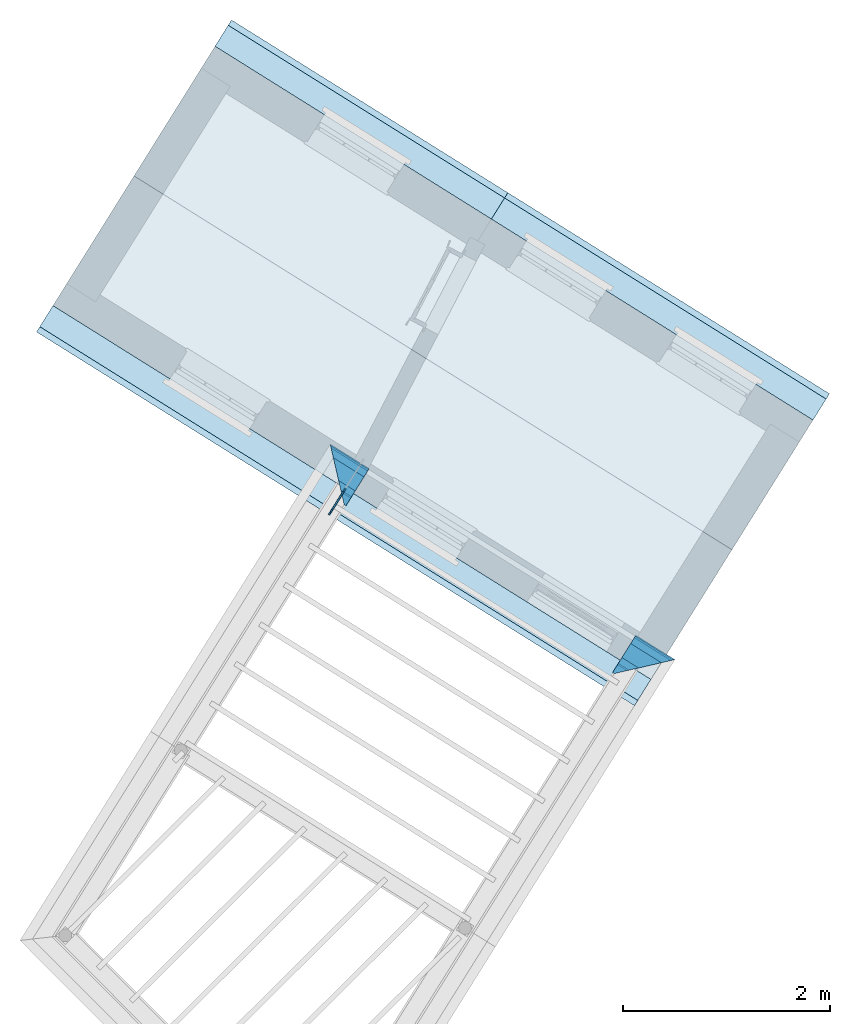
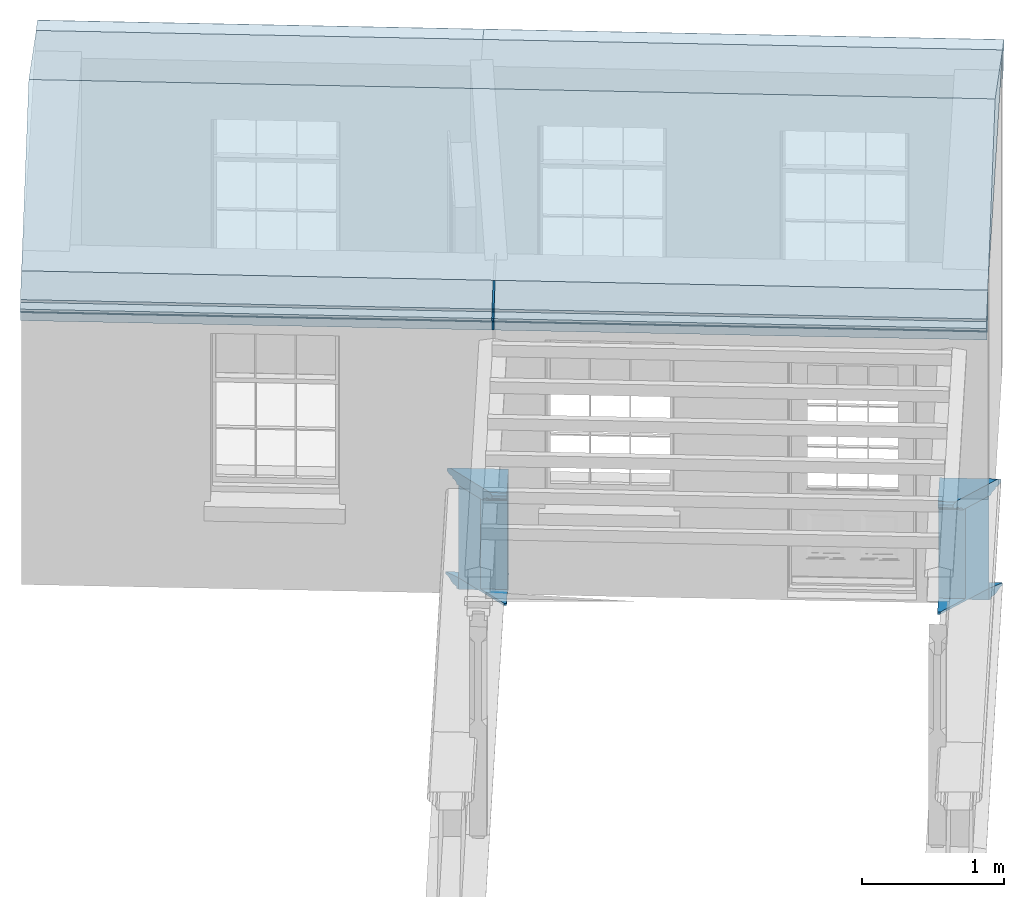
# One storey, part 5 of 5: 11 roofs, 6 walls.
"""IFC4 building model written with IfcOpenShell, lengths in metres."""

from ifc_helpers import new_model, si_unit, frame, origin, origin_with_axes, place, context, subcontext, project, spatial, polyline, outline, extrude, clip, halfspace, faceted_brep, material_profile, profile_set, profile_usage, type_object, element, save


model = new_model("IFC4")

# Units and contexts
model_context = context("Model", 3, world=origin_with_axes())
body_context = subcontext(model_context, "Body", "Model", "MODEL_VIEW")
ifc_project = project(units=[si_unit("PLANEANGLEUNIT", "RADIAN"), si_unit("MASSUNIT", "GRAM", prefix="KILO"), si_unit("FORCEUNIT", "NEWTON", prefix="KILO"), si_unit("LENGTHUNIT", "METRE"), si_unit("AREAUNIT", "SQUARE_METRE"), si_unit("VOLUMEUNIT", "CUBIC_METRE")], contexts=[model_context, model_context])

# Sites, building, storey
site_1_placement = place(None, origin_with_axes())
site_1 = spatial("IfcSite", under=ifc_project, at=site_1_placement, Name="Tamar")
site_2_placement = place(site_1_placement, origin_with_axes())
site_2 = spatial("IfcSite", under=site_1, at=site_2_placement, Name="Site plot-3", CompositionType="ELEMENT")
building_placement = place(None, origin_with_axes())
building = spatial("IfcBuilding", under=site_2, at=building_placement, Name="Building plot-3", CompositionType="ELEMENT")
storey_placement = place(None, frame((0.0, 0.0, 30.5), z_axis=(0.0, 0.0, 1.0), x_axis=(1.0, 0.0, 0.0)))
storey = spatial("IfcBuildingStorey", under=building, at=storey_placement, Name="plot-3 2", CompositionType="ELEMENT", Elevation=30.5)

# Walls
ifc_material_profile_1 = material_profile(None, outline(polyline([(0.25, 0.0), (0.25, 0.795), (0.09, 0.795), (0.09, 0.02), (-0.08, 0.02), (-0.08, 0.0), (0.25, 0.0)])))
ifc_profile_set_1 = profile_set([ifc_material_profile_1])
ifc_profile_usage_1 = profile_usage(ifc_profile_set_1)
wall_type_1 = type_object("IfcWallType", Name="parapet_0", PredefinedType="PARAPET", material=ifc_profile_set_1)
wall_1_placement = place(storey_placement, frame((215.2746900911, 286.334345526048, 0.0), z_axis=(0.84798107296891, -0.53002650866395, 0.0), x_axis=(0.53002650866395, 0.84798107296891, 0.0)))
element("IfcWall", 1, at=wall_1_placement, inside=storey, type_object=wall_type_1, material=ifc_profile_usage_1, Name="parapet_0", context=body_context, shape_type="Clipping", body=[
    clip(clip(extrude(outline(polyline([(0.25, 0.0), (0.25, 0.795), (0.09, 0.795), (0.09, 0.02), (-0.08, 0.02), (-0.08, 0.0), (0.25, 0.0)])), origin_with_axes(), (0.0, 0.0, 1.0), 2.10000000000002), halfspace(frame((0.0, 0.0, 1.10000000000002), z_axis=(-1.20516410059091e-14, 0.0, -1.0), x_axis=(0.0, 1.0, 0.0)), True)), halfspace(frame((0.0, 0.0, 1.0), z_axis=(-0.707106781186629, 0.0, -0.707106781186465), x_axis=(0.0, 1.0, 0.0)), False)),
])
ifc_profile_usage_2 = profile_usage(ifc_profile_set_1)
wall_2_placement = place(storey_placement, frame((217.937238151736, 284.670132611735, 0.0), z_axis=(0.84798107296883, -0.530026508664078, 0.0), x_axis=(0.530026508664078, 0.84798107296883, 0.0)))
element("IfcWall", 2, at=wall_2_placement, inside=storey, type_object=wall_type_1, material=ifc_profile_usage_2, Name="parapet_0", context=body_context, shape_type="Clipping", body=[
    clip(clip(extrude(outline(polyline([(0.25, 0.0), (0.25, 0.795), (0.09, 0.795), (0.09, 0.02), (-0.08, 0.02), (-0.08, 0.0), (0.25, 0.0)])), origin_with_axes(), (0.0, 0.0, 1.0), 2.09999999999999), halfspace(frame((0.0, 0.0, 1.09999999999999), z_axis=(0.707106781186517, 0.0, -0.707106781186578), x_axis=(0.0, 1.0, 0.0)), True)), halfspace(frame((0.0, 0.0, 1.0), z_axis=(-5.83439206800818e-15, 0.0, -1.0), x_axis=(0.0, 1.0, 0.0)), False)),
])
ifc_material_profile_2 = material_profile(None, outline(polyline([(0.265, 0.795), (0.268, 0.807), (0.274, 0.816), (0.283, 0.822), (0.295, 0.825), (0.295, 0.84), (0.305, 0.84), (0.317, 0.842), (0.326, 0.849), (0.333, 0.858), (0.335, 0.87), (0.333, 0.882), (0.326, 0.891), (0.317, 0.898), (0.305, 0.9), (0.035, 0.9), (0.023, 0.898), (0.014, 0.891), (0.007, 0.882), (0.005, 0.87), (0.007, 0.858), (0.014, 0.849), (0.023, 0.842), (0.035, 0.84), (0.045, 0.84), (0.045, 0.825), (0.057, 0.822), (0.066, 0.816), (0.072, 0.807), (0.075, 0.795), (0.265, 0.795)])))
ifc_profile_set_2 = profile_set([ifc_material_profile_2])
ifc_profile_usage_3 = profile_usage(ifc_profile_set_2)
wall_type_2 = type_object("IfcWallType", Name="parapet_1", PredefinedType="PARAPET", material=ifc_profile_set_2)
wall_3_placement = place(storey_placement, frame((215.2746900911, 286.334345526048, 0.0), z_axis=(0.84798107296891, -0.53002650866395, 0.0), x_axis=(0.53002650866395, 0.84798107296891, 0.0)))
element("IfcWall", 3, at=wall_3_placement, inside=storey, type_object=wall_type_2, material=ifc_profile_usage_3, Name="parapet_1", context=body_context, shape_type="Clipping", body=[
    clip(clip(extrude(outline(polyline([(0.265, 0.795), (0.268, 0.807), (0.274, 0.816), (0.283, 0.822), (0.295, 0.825), (0.295, 0.84), (0.305, 0.84), (0.317, 0.842), (0.326, 0.849), (0.333, 0.858), (0.335, 0.87), (0.333, 0.882), (0.326, 0.891), (0.317, 0.898), (0.305, 0.9), (0.035, 0.9), (0.023, 0.898), (0.014, 0.891), (0.007, 0.882), (0.005, 0.87), (0.007, 0.858), (0.014, 0.849), (0.023, 0.842), (0.035, 0.84), (0.045, 0.84), (0.045, 0.825), (0.057, 0.822), (0.066, 0.816), (0.072, 0.807), (0.075, 0.795), (0.265, 0.795)])), origin_with_axes(), (0.0, 0.0, 1.0), 2.10000000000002), halfspace(frame((0.0, 0.0, 1.10000000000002), z_axis=(-1.20516410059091e-14, 0.0, -1.0), x_axis=(0.0, 1.0, 0.0)), True)), halfspace(frame((0.0, 0.0, 1.0), z_axis=(-0.707106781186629, 0.0, -0.707106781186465), x_axis=(0.0, 1.0, 0.0)), False)),
])
ifc_profile_usage_4 = profile_usage(ifc_profile_set_2)
wall_4_placement = place(storey_placement, frame((217.937238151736, 284.670132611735, 0.0), z_axis=(0.84798107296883, -0.530026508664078, 0.0), x_axis=(0.530026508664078, 0.84798107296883, 0.0)))
element("IfcWall", 4, at=wall_4_placement, inside=storey, type_object=wall_type_2, material=ifc_profile_usage_4, Name="parapet_1", context=body_context, shape_type="Clipping", body=[
    clip(clip(extrude(outline(polyline([(0.265, 0.795), (0.268, 0.807), (0.274, 0.816), (0.283, 0.822), (0.295, 0.825), (0.295, 0.84), (0.305, 0.84), (0.317, 0.842), (0.326, 0.849), (0.333, 0.858), (0.335, 0.87), (0.333, 0.882), (0.326, 0.891), (0.317, 0.898), (0.305, 0.9), (0.035, 0.9), (0.023, 0.898), (0.014, 0.891), (0.007, 0.882), (0.005, 0.87), (0.007, 0.858), (0.014, 0.849), (0.023, 0.842), (0.035, 0.84), (0.045, 0.84), (0.045, 0.825), (0.057, 0.822), (0.066, 0.816), (0.072, 0.807), (0.075, 0.795), (0.265, 0.795)])), origin_with_axes(), (0.0, 0.0, 1.0), 2.09999999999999), halfspace(frame((0.0, 0.0, 1.09999999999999), z_axis=(0.707106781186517, 0.0, -0.707106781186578), x_axis=(0.0, 1.0, 0.0)), True)), halfspace(frame((0.0, 0.0, 1.0), z_axis=(-5.83439206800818e-15, 0.0, -1.0), x_axis=(0.0, 1.0, 0.0)), False)),
])
ifc_material_profile_3 = material_profile(None, outline(polyline([(0.25, -0.1), (0.265, -0.1), (0.265, -0.085), (0.278, -0.084), (0.289, -0.081), (0.301, -0.074), (0.309, -0.065), (0.315, -0.055), (0.324, -0.044), (0.334, -0.038), (0.345, -0.035), (0.345, -0.015), (0.25, 0.0), (0.25, -0.1)])))
ifc_profile_set_3 = profile_set([ifc_material_profile_3])
ifc_profile_usage_5 = profile_usage(ifc_profile_set_3)
wall_type_3 = type_object("IfcWallType", Name="parapet_2", PredefinedType="PARAPET", material=ifc_profile_set_3)
wall_5_placement = place(storey_placement, frame((215.2746900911, 286.334345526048, 0.0), z_axis=(0.84798107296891, -0.53002650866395, 0.0), x_axis=(0.53002650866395, 0.84798107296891, 0.0)))
element("IfcWall", 5, at=wall_5_placement, inside=storey, type_object=wall_type_3, material=ifc_profile_usage_5, Name="parapet_2", context=body_context, shape_type="Clipping", body=[
    clip(clip(extrude(outline(polyline([(0.25, -0.1), (0.265, -0.1), (0.265, -0.085), (0.278, -0.084), (0.289, -0.081), (0.301, -0.074), (0.309, -0.065), (0.315, -0.055), (0.324, -0.044), (0.334, -0.038), (0.345, -0.035), (0.345, -0.015), (0.25, 0.0), (0.25, -0.1)])), origin_with_axes(), (0.0, 0.0, 1.0), 2.10000000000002), halfspace(frame((0.0, 0.0, 1.10000000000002), z_axis=(-1.20516410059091e-14, 0.0, -1.0), x_axis=(0.0, 1.0, 0.0)), True)), halfspace(frame((0.0, 0.0, 1.0), z_axis=(-0.707106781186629, 0.0, -0.707106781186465), x_axis=(0.0, 1.0, 0.0)), False)),
])
ifc_profile_usage_6 = profile_usage(ifc_profile_set_3)
wall_6_placement = place(storey_placement, frame((217.937238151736, 284.670132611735, 0.0), z_axis=(0.84798107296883, -0.530026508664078, 0.0), x_axis=(0.530026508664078, 0.84798107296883, 0.0)))
element("IfcWall", 6, at=wall_6_placement, inside=storey, type_object=wall_type_3, material=ifc_profile_usage_6, Name="parapet_2", context=body_context, shape_type="Clipping", body=[
    clip(clip(extrude(outline(polyline([(0.25, -0.1), (0.265, -0.1), (0.265, -0.085), (0.278, -0.084), (0.289, -0.081), (0.301, -0.074), (0.309, -0.065), (0.315, -0.055), (0.324, -0.044), (0.334, -0.038), (0.345, -0.035), (0.345, -0.015), (0.25, 0.0), (0.25, -0.1)])), origin_with_axes(), (0.0, 0.0, 1.0), 2.09999999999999), halfspace(frame((0.0, 0.0, 1.09999999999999), z_axis=(0.707106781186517, 0.0, -0.707106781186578), x_axis=(0.0, 1.0, 0.0)), True)), halfspace(frame((0.0, 0.0, 1.0), z_axis=(-5.83439206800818e-15, 0.0, -1.0), x_axis=(0.0, 1.0, 0.0)), False)),
])

# Roofs
ifc_material_profile_4 = material_profile(None, outline(polyline([(0.25, -0.11), (0.25, -0.33), (0.265, -0.33), (0.268, -0.318), (0.274, -0.309), (0.283, -0.303), (0.295, -0.3), (0.295, -0.285), (0.455, -0.285), (0.455, -0.205), (0.47, -0.205), (0.47, -0.19), (0.483, -0.189), (0.494, -0.186), (0.506, -0.179), (0.514, -0.17), (0.52, -0.16), (0.529, -0.149), (0.539, -0.143), (0.55, -0.14), (0.55, -0.12), (0.48, -0.11), (0.25, -0.11)])))
ifc_profile_set_4 = profile_set([ifc_material_profile_4])
ifc_profile_usage_7 = profile_usage(ifc_profile_set_4)
roof_type_1 = type_object("IfcRoofType", Name="eaves_0", PredefinedType="FREEFORM", material=ifc_profile_set_4)
roof_1_placement = place(storey_placement, frame((217.134960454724, 285.537166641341, 2.7), z_axis=(-0.847981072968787, 0.530026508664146, 0.0), x_axis=(-0.530026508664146, -0.847981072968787, 0.0)))
element("IfcRoof", 7, at=roof_1_placement, inside=storey, type_object=roof_type_1, material=ifc_profile_usage_7, Name="eaves_0", context=body_context, shape_type="Clipping", body=[
    clip(clip(extrude(outline(polyline([(0.25, -0.11), (0.25, -0.33), (0.265, -0.33), (0.268, -0.318), (0.274, -0.309), (0.283, -0.303), (0.295, -0.3), (0.295, -0.285), (0.455, -0.285), (0.455, -0.205), (0.47, -0.205), (0.47, -0.19), (0.483, -0.189), (0.494, -0.186), (0.506, -0.179), (0.514, -0.17), (0.52, -0.16), (0.529, -0.149), (0.539, -0.143), (0.55, -0.14), (0.55, -0.12), (0.48, -0.11), (0.25, -0.11)])), origin_with_axes(), (0.0, 0.0, 1.0), 5.32765367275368), halfspace(frame((0.0, 0.0, 4.32765367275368), z_axis=(1.59259792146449e-14, 0.0, -1.0), x_axis=(0.0, 1.0, 0.0)), True)), halfspace(frame((0.0, 0.0, 1.0), z_axis=(1.59259792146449e-14, 0.0, -1.0), x_axis=(0.0, 1.0, 0.0)), False)),
])
ifc_profile_usage_8 = profile_usage(ifc_profile_set_4)
roof_2_placement = place(storey_placement, frame((217.147106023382, 285.529575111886, 2.7), z_axis=(-0.847981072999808, 0.530026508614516, 0.0), x_axis=(-0.530026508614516, -0.847981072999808, 0.0)))
element("IfcRoof", 8, at=roof_2_placement, inside=storey, type_object=roof_type_1, material=ifc_profile_usage_8, Name="eaves_0", context=body_context, shape_type="Clipping", body=[
    clip(clip(extrude(outline(polyline([(0.25, -0.11), (0.25, -0.33), (0.265, -0.33), (0.268, -0.318), (0.274, -0.309), (0.283, -0.303), (0.295, -0.3), (0.295, -0.285), (0.455, -0.285), (0.455, -0.205), (0.47, -0.205), (0.47, -0.19), (0.483, -0.189), (0.494, -0.186), (0.506, -0.179), (0.514, -0.17), (0.52, -0.16), (0.529, -0.149), (0.539, -0.143), (0.55, -0.14), (0.55, -0.12), (0.48, -0.11), (0.25, -0.11)])), origin_with_axes(), (0.0, 0.0, 1.0), 2.01432292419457), halfspace(frame((0.0, 0.0, 1.01432292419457), z_axis=(5.85428870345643e-11, 0.0, -1.0), x_axis=(0.0, 1.0, 0.0)), True)), halfspace(frame((0.0, 0.0, 1.0), z_axis=(1.28173547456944e-14, 0.0, -1.0), x_axis=(0.0, 1.0, 0.0)), False)),
])
ifc_profile_usage_9 = profile_usage(ifc_profile_set_4)
roof_3_placement = place(storey_placement, frame((220.094301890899, 283.687444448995, 2.7), z_axis=(-0.847981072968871, 0.530026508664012, 0.0), x_axis=(-0.530026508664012, -0.847981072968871, 0.0)))
element("IfcRoof", 9, at=roof_3_placement, inside=storey, type_object=roof_type_1, material=ifc_profile_usage_9, Name="eaves_0", context=body_context, shape_type="Clipping", body=[
    clip(clip(extrude(outline(polyline([(0.25, -0.11), (0.25, -0.33), (0.265, -0.33), (0.268, -0.318), (0.274, -0.309), (0.283, -0.303), (0.295, -0.3), (0.295, -0.285), (0.455, -0.285), (0.455, -0.205), (0.47, -0.205), (0.47, -0.19), (0.483, -0.189), (0.494, -0.186), (0.506, -0.179), (0.514, -0.17), (0.52, -0.16), (0.529, -0.149), (0.539, -0.143), (0.55, -0.14), (0.55, -0.12), (0.48, -0.11), (0.25, -0.11)])), origin_with_axes(), (0.0, 0.0, 1.0), 5.47554439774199), halfspace(frame((0.0, 0.0, 4.47554439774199), z_axis=(-5.83556038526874e-11, 0.0, -1.0), x_axis=(0.0, 1.0, 0.0)), True)), halfspace(frame((0.0, 0.0, 1.0), z_axis=(-5.83439206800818e-15, 0.0, -1.0), x_axis=(0.0, 1.0, 0.0)), False)),
])
ifc_material_profile_5 = material_profile(None, outline(polyline([(0.25, -0.11), (0.48, -0.11), (0.49, -0.08), (0.25, 0.0), (0.25, -0.11)])))
ifc_profile_set_5 = profile_set([ifc_material_profile_5])
ifc_profile_usage_10 = profile_usage(ifc_profile_set_5)
roof_type_2 = type_object("IfcRoofType", Name="eaves_1", PredefinedType="FREEFORM", material=ifc_profile_set_5)
roof_4_placement = place(storey_placement, frame((217.134960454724, 285.537166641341, 2.7), z_axis=(-0.847981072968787, 0.530026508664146, 0.0), x_axis=(-0.530026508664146, -0.847981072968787, 0.0)))
element("IfcRoof", 10, at=roof_4_placement, inside=storey, type_object=roof_type_2, material=ifc_profile_usage_10, Name="eaves_1", context=body_context, shape_type="Clipping", body=[
    clip(clip(extrude(outline(polyline([(0.25, -0.11), (0.48, -0.11), (0.49, -0.08), (0.25, 0.0), (0.25, -0.11)])), origin_with_axes(), (0.0, 0.0, 1.0), 5.32765367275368), halfspace(frame((0.0, 0.0, 4.32765367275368), z_axis=(1.59259792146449e-14, 0.0, -1.0), x_axis=(0.0, 1.0, 0.0)), True)), halfspace(frame((0.0, 0.0, 1.0), z_axis=(1.59259792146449e-14, 0.0, -1.0), x_axis=(0.0, 1.0, 0.0)), False)),
])
ifc_profile_usage_11 = profile_usage(ifc_profile_set_5)
roof_5_placement = place(storey_placement, frame((217.147106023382, 285.529575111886, 2.7), z_axis=(-0.847981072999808, 0.530026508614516, 0.0), x_axis=(-0.530026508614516, -0.847981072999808, 0.0)))
element("IfcRoof", 11, at=roof_5_placement, inside=storey, type_object=roof_type_2, material=ifc_profile_usage_11, Name="eaves_1", context=body_context, shape_type="Clipping", body=[
    clip(clip(extrude(outline(polyline([(0.25, -0.11), (0.48, -0.11), (0.49, -0.08), (0.25, 0.0), (0.25, -0.11)])), origin_with_axes(), (0.0, 0.0, 1.0), 2.01432292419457), halfspace(frame((0.0, 0.0, 1.01432292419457), z_axis=(5.85428870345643e-11, 0.0, -1.0), x_axis=(0.0, 1.0, 0.0)), True)), halfspace(frame((0.0, 0.0, 1.0), z_axis=(1.28173547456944e-14, 0.0, -1.0), x_axis=(0.0, 1.0, 0.0)), False)),
])
ifc_profile_usage_12 = profile_usage(ifc_profile_set_5)
roof_6_placement = place(storey_placement, frame((220.094301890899, 283.687444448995, 2.7), z_axis=(-0.847981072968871, 0.530026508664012, 0.0), x_axis=(-0.530026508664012, -0.847981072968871, 0.0)))
element("IfcRoof", 12, at=roof_6_placement, inside=storey, type_object=roof_type_2, material=ifc_profile_usage_12, Name="eaves_1", context=body_context, shape_type="Clipping", body=[
    clip(clip(extrude(outline(polyline([(0.25, -0.11), (0.48, -0.11), (0.49, -0.08), (0.25, 0.0), (0.25, -0.11)])), origin_with_axes(), (0.0, 0.0, 1.0), 5.47554439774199), halfspace(frame((0.0, 0.0, 4.47554439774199), z_axis=(-5.83556038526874e-11, 0.0, -1.0), x_axis=(0.0, 1.0, 0.0)), True)), halfspace(frame((0.0, 0.0, 1.0), z_axis=(-5.83439206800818e-15, 0.0, -1.0), x_axis=(0.0, 1.0, 0.0)), False)),
])
ifc_material_profile_6 = material_profile(None, outline(polyline([(0.25, -0.11), (0.25, -0.33), (0.265, -0.33), (0.268, -0.318), (0.274, -0.309), (0.283, -0.303), (0.295, -0.3), (0.295, -0.285), (0.455, -0.285), (0.455, -0.205), (0.47, -0.205), (0.47, -0.19), (0.483, -0.189), (0.494, -0.186), (0.506, -0.179), (0.514, -0.17), (0.52, -0.16), (0.529, -0.149), (0.539, -0.143), (0.55, -0.14), (0.55, -0.12), (0.48, -0.11), (0.25, -0.11)])))
ifc_profile_set_6 = profile_set([ifc_material_profile_6])
ifc_profile_usage_13 = profile_usage(ifc_profile_set_6)
roof_type_3 = type_object("IfcRoofType", Name="eaves_0", PredefinedType="FREEFORM", material=ifc_profile_set_6)
roof_7_placement = place(storey_placement, frame((216.590760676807, 288.774154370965, 2.7), z_axis=(0.847981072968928, -0.530026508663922, 0.0), x_axis=(0.530026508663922, 0.847981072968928, 0.0)))
element("IfcRoof", 13, at=roof_7_placement, inside=storey, type_object=roof_type_3, material=ifc_profile_usage_13, Name="eaves_0", context=body_context, shape_type="Clipping", body=[
    clip(clip(extrude(outline(polyline([(0.25, -0.11), (0.25, -0.33), (0.265, -0.33), (0.268, -0.318), (0.274, -0.309), (0.283, -0.303), (0.295, -0.3), (0.295, -0.285), (0.455, -0.285), (0.455, -0.205), (0.47, -0.205), (0.47, -0.19), (0.483, -0.189), (0.494, -0.186), (0.506, -0.179), (0.514, -0.17), (0.52, -0.16), (0.529, -0.149), (0.539, -0.143), (0.55, -0.14), (0.55, -0.12), (0.48, -0.11), (0.25, -0.11)])), origin_with_axes(), (0.0, 0.0, 1.0), 5.66702773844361), halfspace(frame((0.0, 0.0, 4.66702773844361), z_axis=(-3.16985680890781e-15, 0.0, -1.0), x_axis=(0.0, 1.0, 0.0)), True)), halfspace(frame((0.0, 0.0, 1.0), z_axis=(-3.16985680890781e-15, 0.0, -1.0), x_axis=(0.0, 1.0, 0.0)), False)),
])
ifc_profile_usage_14 = profile_usage(ifc_profile_set_6)
roof_8_placement = place(storey_placement, frame((213.919202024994, 290.443999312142, 2.7), z_axis=(0.84798107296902, -0.530026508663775, 0.0), x_axis=(0.530026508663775, 0.84798107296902, 0.0)))
element("IfcRoof", 14, at=roof_8_placement, inside=storey, type_object=roof_type_3, material=ifc_profile_usage_14, Name="eaves_0", context=body_context, shape_type="Clipping", body=[
    clip(clip(extrude(outline(polyline([(0.25, -0.11), (0.25, -0.33), (0.265, -0.33), (0.268, -0.318), (0.274, -0.309), (0.283, -0.303), (0.295, -0.3), (0.295, -0.285), (0.455, -0.285), (0.455, -0.205), (0.47, -0.205), (0.47, -0.19), (0.483, -0.189), (0.494, -0.186), (0.506, -0.179), (0.514, -0.17), (0.52, -0.16), (0.529, -0.149), (0.539, -0.143), (0.55, -0.14), (0.55, -0.12), (0.48, -0.11), (0.25, -0.11)])), origin_with_axes(), (0.0, 0.0, 1.0), 5.15049325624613), halfspace(frame((0.0, 0.0, 4.15049325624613), z_axis=(1.70469024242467e-13, 0.0, -1.0), x_axis=(0.0, 1.0, 0.0)), True)), halfspace(frame((0.0, 0.0, 1.0), z_axis=(1.99227821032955e-14, 0.0, -1.0), x_axis=(0.0, 1.0, 0.0)), False)),
])
ifc_material_profile_7 = material_profile(None, outline(polyline([(0.25, -0.11), (0.48, -0.11), (0.49, -0.08), (0.25, 0.0), (0.25, -0.11)])))
ifc_profile_set_7 = profile_set([ifc_material_profile_7])
ifc_profile_usage_15 = profile_usage(ifc_profile_set_7)
roof_type_4 = type_object("IfcRoofType", Name="eaves_1", PredefinedType="FREEFORM", material=ifc_profile_set_7)
roof_9_placement = place(storey_placement, frame((216.590760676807, 288.774154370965, 2.7), z_axis=(0.847981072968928, -0.530026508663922, 0.0), x_axis=(0.530026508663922, 0.847981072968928, 0.0)))
element("IfcRoof", 15, at=roof_9_placement, inside=storey, type_object=roof_type_4, material=ifc_profile_usage_15, Name="eaves_1", context=body_context, shape_type="Clipping", body=[
    clip(clip(extrude(outline(polyline([(0.25, -0.11), (0.48, -0.11), (0.49, -0.08), (0.25, 0.0), (0.25, -0.11)])), origin_with_axes(), (0.0, 0.0, 1.0), 5.66702773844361), halfspace(frame((0.0, 0.0, 4.66702773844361), z_axis=(-3.16985680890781e-15, 0.0, -1.0), x_axis=(0.0, 1.0, 0.0)), True)), halfspace(frame((0.0, 0.0, 1.0), z_axis=(-3.16985680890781e-15, 0.0, -1.0), x_axis=(0.0, 1.0, 0.0)), False)),
])
ifc_profile_usage_16 = profile_usage(ifc_profile_set_7)
roof_10_placement = place(storey_placement, frame((213.919202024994, 290.443999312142, 2.7), z_axis=(0.84798107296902, -0.530026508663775, 0.0), x_axis=(0.530026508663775, 0.84798107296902, 0.0)))
element("IfcRoof", 16, at=roof_10_placement, inside=storey, type_object=roof_type_4, material=ifc_profile_usage_16, Name="eaves_1", context=body_context, shape_type="Clipping", body=[
    clip(clip(extrude(outline(polyline([(0.25, -0.11), (0.48, -0.11), (0.49, -0.08), (0.25, 0.0), (0.25, -0.11)])), origin_with_axes(), (0.0, 0.0, 1.0), 5.15049325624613), halfspace(frame((0.0, 0.0, 4.15049325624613), z_axis=(1.70469024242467e-13, 0.0, -1.0), x_axis=(0.0, 1.0, 0.0)), True)), halfspace(frame((0.0, 0.0, 1.0), z_axis=(1.99227821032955e-14, 0.0, -1.0), x_axis=(0.0, 1.0, 0.0)), False)),
])
roof_11_placement = place(building_placement, origin())
element("IfcRoof", 17, at=roof_11_placement, inside=storey, Name="Roof", PredefinedType="FREEFORM", context=body_context, shape_type="Brep", body=[
    faceted_brep([(213.332685, 287.618943, 33.2), (219.113814, 284.005476, 33.2), (219.897316, 285.258988, 33.812304), (214.116188, 288.872455, 33.812304), (220.680818, 286.512501, 33.2), (214.89969, 290.125968, 33.2)], [[[0, 1, 2, 3]], [[4, 5, 3, 2]], [[5, 4, 1, 0]], [[5, 0, 3]], [[1, 4, 2]]]),
])

save(model, "model.ifc")
